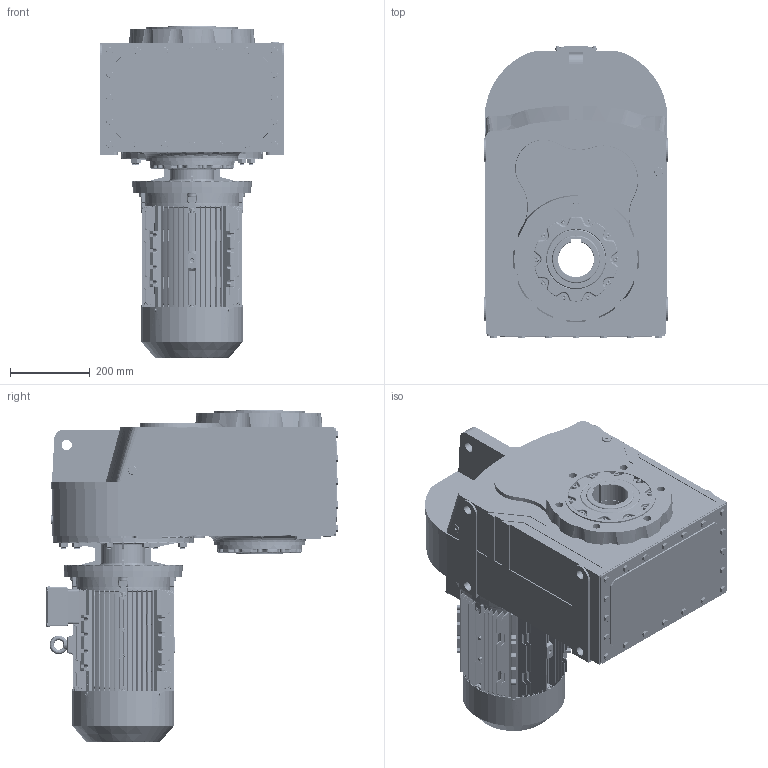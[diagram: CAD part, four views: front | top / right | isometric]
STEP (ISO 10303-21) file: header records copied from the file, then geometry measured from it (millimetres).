
FILE_DESCRIPTION (( 'STEP AP203' ), '1' );
FILE_NAME ('DV_773_0_MX3-132M.STEP', '2018-11-16T08:24:44', ( '' ), ( '' ), 'SwSTEP 2.0', 'SolidWorks 2012', '' );
FILE_SCHEMA (( 'CONFIG_CONTROL_DESIGN' ));
Products named in the file (25): -戌呲25; 132〩仁佞蹉峔; 132〩仁佞怔; ﾋ-ﾀﾔ40X58X7; 132ÀþiÍ; deep groove ball bearings gb_Rolling bearings 6308 GB 276-94_1; 132M 俓; 132 瞬++-4; 132B3ﾂ-ｩﾃ; 132M B5+ｷ+ﾃ; 63132B5_Varsayìlan; ML22A_Varsayìlan_1; D773_Varsayìlan_1; MX3-132M_B5; cross recessed pan head screws gb_GB_CROSS_SCREWS_TYPE1 M5X12-12  H type-N_1; DV_773_0_MX3-132M; hexagon socket head cap screws gb_GB_FASTENER_SCREWS_HSHCS M8X40-N_1; circlips for shaft--type a large gb_GB_CONNECTING_PIECE_RING_RRA 28; hex nuts, style 1-grades ab gb_GB_FASTENER_NUT_SNAB1 M8-N; hexagon flange head tapping screws gb_GB_SQUARE_AND_HEXAGON_TYPE137 ST4.2X9.5 C-N; 132M B5ﾂ-ｩﾃ; hexagon socket head cap screws gb_GB_FASTENER_SCREWS_HSHCS M8X45-N; spring lock washers--normal type gb_GB_FASTENER_WASHER_SW 8_1; eyebolts gb_GB_FASTENER_SCREWS_FRS M10-N_1; plain parallel keys_GB_CONNECTING_PIECE_KEYS_CSK 10X70_1
Assembly tree (52 placements, depth 3):
  DV_773_0_MX3-132M
    D773_Varsayìlan_1
    63132B5_Varsayìlan
    ML22A_Varsayìlan_1
    MX3-132M_B5
      132M B5+ｷ+ﾃ
      132B3ﾂ-ｩﾃ
      132M 俓
      deep groove ball bearings gb_Rolling bearings 6308 GB 276-94_1  x2
      132 瞬++-4
      132ÀþiÍ
      132〩仁佞蹉峔
      132〩仁佞怔
      -戌呲25  x2
      ﾋ-ﾀﾔ40X58X7
      plain parallel keys_GB_CONNECTING_PIECE_KEYS_CSK 10X70_1
      eyebolts gb_GB_FASTENER_SCREWS_FRS M10-N_1
      132M B5ﾂ-ｩﾃ
      hexagon socket head cap screws gb_GB_FASTENER_SCREWS_HSHCS M8X45-N  x4
      spring lock washers--normal type gb_GB_FASTENER_WASHER_SW 8_1  x8
      hex nuts, style 1-grades ab gb_GB_FASTENER_NUT_SNAB1 M8-N  x7
      hexagon socket head cap screws gb_GB_FASTENER_SCREWS_HSHCS M8X40-N_1  x5
      circlips for shaft--type a large gb_GB_CONNECTING_PIECE_RING_RRA 28
      hexagon flange head tapping screws gb_GB_SQUARE_AND_HEXAGON_TYPE137 ST4.2X9.5 C-N  x4
      cross recessed pan head screws gb_GB_CROSS_SCREWS_TYPE1 M5X12-12  H type-N_1  x4
Bounding box: 464 x 736.4 x 835.12 mm (x, y, z)
Volume: 86577775.7 mm3; surface area: 4170039.4 mm2
Topology: 54 solids, 56 shells, 9591 faces, 24560 edges, 14938 vertices
Faces by surface type: plane 3297, cylinder 2406, bspline 2358, cone 1010, torus 382, sphere 138
Entity records: 357115 total; most frequent: CARTESIAN_POINT 157551, ORIENTED_EDGE 44810, DIRECTION 35615, EDGE_CURVE 22405, VERTEX_POINT 13763, AXIS2_PLACEMENT_3D 13177, EDGE_LOOP 9674, VECTOR 9261
